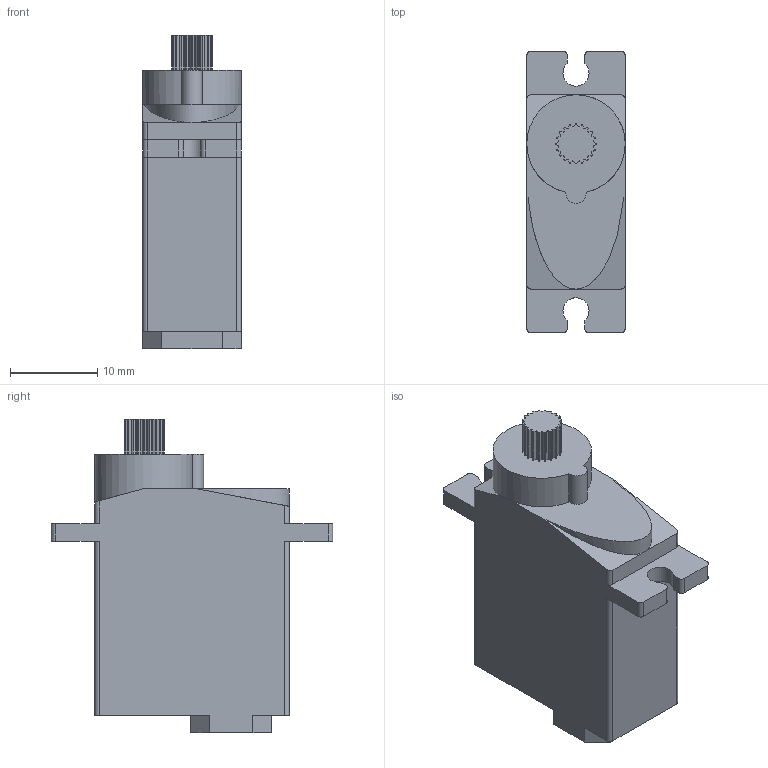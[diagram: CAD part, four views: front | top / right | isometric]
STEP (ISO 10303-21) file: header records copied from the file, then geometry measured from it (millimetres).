
FILE_DESCRIPTION(/* description */ ('Alibre Inc.'),/* implementation_level */ '2;1');
FILE_NAME(/* name */ 'export0',/* time_stamp */ '2013-07-19T10:58:01-06:00',/* author */ (''),/* organization */ (''),/* preprocessor_version */ 'ST-DEVELOPER v14',/* originating_system */ 'Alibre',/* authorisation */ '');
FILE_SCHEMA (('ALIBRE_SCHEMA','CONFIG_CONTROL_DESIGN'));
Length unit declared in the file: centimetre
Products named in the file (1): ID_1
Bounding box: 11.3 x 32.3 x 36 mm (x, y, z)
Volume: 7331.2 mm3; surface area: 2764.3 mm2
Topology: 1 solids, 1 shells, 137 faces, 398 edges, 264 vertices
Faces by surface type: plane 76, cylinder 60, extrusion 1
Entity records: 10068 total; most frequent: CARTESIAN_POINT 1734, DIRECTION 1007, CONSTRAINTPAIRUV 798, ORIENTED_EDGE 796, REFERENCEDEPENDENTUV 692, VECTOR 549, LINE 435, REFERENCEPOINTUV 414
